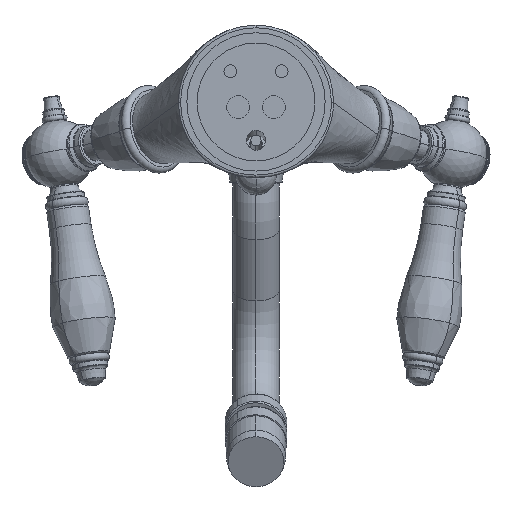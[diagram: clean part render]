
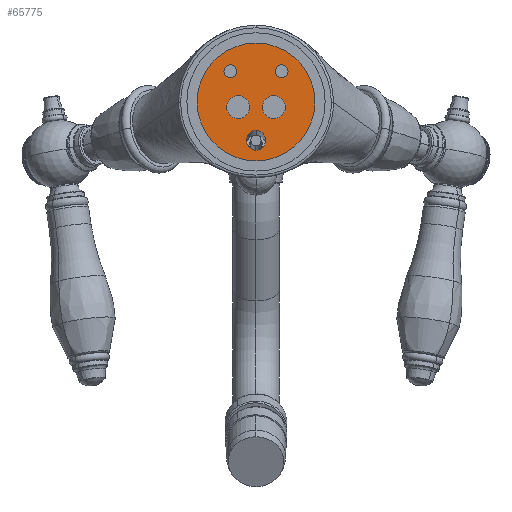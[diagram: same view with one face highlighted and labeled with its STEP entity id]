
A CAD part, front view. The second image highlights one B-rep face of the part: STEP entity #65775.
In plain terms, the highlighted planar face has unit normal (0, -1, 0).
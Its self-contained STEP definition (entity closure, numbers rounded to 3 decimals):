
#19876=CARTESIAN_POINT('',(0.,0.,0.));
#19877=DIRECTION('',(0.,1.,0.));
#19878=DIRECTION('',(-1.,0.,0.));
#19879=AXIS2_PLACEMENT_3D('',#19876,#19877,#19878);
#19881=CARTESIAN_POINT('',(0.,0.,0.));
#19882=DIRECTION('',(0.,1.,0.));
#19883=DIRECTION('',(1.,0.,0.));
#19884=AXIS2_PLACEMENT_3D('',#19881,#19882,#19883);
#19886=CARTESIAN_POINT('',(-7.,0.,-2.));
#19887=DIRECTION('',(0.,-1.,0.));
#19888=DIRECTION('',(-1.,0.,0.));
#19889=AXIS2_PLACEMENT_3D('',#19886,#19887,#19888);
#19891=CARTESIAN_POINT('',(-7.,0.,-2.));
#19892=DIRECTION('',(0.,-1.,0.));
#19893=DIRECTION('',(1.,0.,0.));
#19894=AXIS2_PLACEMENT_3D('',#19891,#19892,#19893);
#19896=CARTESIAN_POINT('',(7.,0.,-2.));
#19897=DIRECTION('',(0.,-1.,0.));
#19898=DIRECTION('',(-1.,0.,0.));
#19899=AXIS2_PLACEMENT_3D('',#19896,#19897,#19898);
#19901=CARTESIAN_POINT('',(7.,0.,-2.));
#19902=DIRECTION('',(0.,-1.,0.));
#19903=DIRECTION('',(1.,0.,0.));
#19904=AXIS2_PLACEMENT_3D('',#19901,#19902,#19903);
#19906=CARTESIAN_POINT('',(-10.,0.,12.));
#19907=DIRECTION('',(0.,-1.,0.));
#19908=DIRECTION('',(-1.,0.,0.));
#19909=AXIS2_PLACEMENT_3D('',#19906,#19907,#19908);
#19911=CARTESIAN_POINT('',(-10.,0.,12.));
#19912=DIRECTION('',(0.,-1.,0.));
#19913=DIRECTION('',(1.,0.,0.));
#19914=AXIS2_PLACEMENT_3D('',#19911,#19912,#19913);
#19916=CARTESIAN_POINT('',(10.,0.,12.));
#19917=DIRECTION('',(0.,-1.,0.));
#19918=DIRECTION('',(-1.,0.,0.));
#19919=AXIS2_PLACEMENT_3D('',#19916,#19917,#19918);
#19921=CARTESIAN_POINT('',(10.,0.,12.));
#19922=DIRECTION('',(0.,-1.,0.));
#19923=DIRECTION('',(1.,0.,0.));
#19924=AXIS2_PLACEMENT_3D('',#19921,#19922,#19923);
#19926=CARTESIAN_POINT('',(0.,0.,
-18.882));
#19927=CARTESIAN_POINT('',(0.221,0.,
-18.882));
#19928=CARTESIAN_POINT('',(0.679,0.,
-18.842));
#19929=CARTESIAN_POINT('',(1.385,0.,
-18.636));
#19930=CARTESIAN_POINT('',(2.064,0.,
-18.274));
#19931=CARTESIAN_POINT('',(2.671,0.,
-17.765));
#19932=CARTESIAN_POINT('',(3.162,0.,
-17.137));
#19933=CARTESIAN_POINT('',(3.512,0.,
-16.433));
#19934=CARTESIAN_POINT('',(3.678,0.,
-15.825));
#19935=CARTESIAN_POINT('',(3.74,0.,
-15.347));
#19936=CARTESIAN_POINT('',(3.755,0.,
-15.));
#19937=CARTESIAN_POINT('',(3.74,0.,
-14.653));
#19938=CARTESIAN_POINT('',(3.678,0.,
-14.175));
#19939=CARTESIAN_POINT('',(3.512,0.,
-13.567));
#19940=CARTESIAN_POINT('',(3.162,0.,
-12.863));
#19941=CARTESIAN_POINT('',(2.671,0.,
-12.235));
#19942=CARTESIAN_POINT('',(2.064,0.,
-11.726));
#19943=CARTESIAN_POINT('',(1.385,0.,
-11.364));
#19944=CARTESIAN_POINT('',(0.679,0.,
-11.158));
#19945=CARTESIAN_POINT('',(0.221,0.,
-11.118));
#19946=CARTESIAN_POINT('',(0.,0.,
-11.118));
#19948=CARTESIAN_POINT('',(0.,0.,
-11.118));
#19949=CARTESIAN_POINT('',(-0.221,0.,
-11.118));
#19950=CARTESIAN_POINT('',(-0.679,0.,
-11.158));
#19951=CARTESIAN_POINT('',(-1.385,0.,
-11.364));
#19952=CARTESIAN_POINT('',(-2.064,0.,
-11.726));
#19953=CARTESIAN_POINT('',(-2.671,0.,
-12.235));
#19954=CARTESIAN_POINT('',(-3.162,0.,
-12.863));
#19955=CARTESIAN_POINT('',(-3.512,0.,
-13.567));
#19956=CARTESIAN_POINT('',(-3.678,0.,
-14.175));
#19957=CARTESIAN_POINT('',(-3.74,0.,
-14.653));
#19958=CARTESIAN_POINT('',(-3.755,0.,
-15.));
#19959=CARTESIAN_POINT('',(-3.74,0.,
-15.347));
#19960=CARTESIAN_POINT('',(-3.678,0.,
-15.825));
#19961=CARTESIAN_POINT('',(-3.512,0.,
-16.433));
#19962=CARTESIAN_POINT('',(-3.162,0.,
-17.137));
#19963=CARTESIAN_POINT('',(-2.671,0.,
-17.765));
#19964=CARTESIAN_POINT('',(-2.064,0.,
-18.274));
#19965=CARTESIAN_POINT('',(-1.385,0.,
-18.636));
#19966=CARTESIAN_POINT('',(-0.679,0.,
-18.842));
#19967=CARTESIAN_POINT('',(-0.221,0.,
-18.882));
#19968=CARTESIAN_POINT('',(0.,0.,
-18.882));
#23020=CARTESIAN_POINT('',(-23.,0.,0.));
#23021=CARTESIAN_POINT('',(23.,0.,0.));
#23022=VERTEX_POINT('',#23020);
#23023=VERTEX_POINT('',#23021);
#23036=CARTESIAN_POINT('',(-11.5,0.,-2.));
#23037=CARTESIAN_POINT('',(-2.5,0.,-2.));
#23038=VERTEX_POINT('',#23036);
#23039=VERTEX_POINT('',#23037);
#23040=CARTESIAN_POINT('',(2.5,0.,-2.));
#23041=CARTESIAN_POINT('',(11.5,0.,-2.));
#23042=VERTEX_POINT('',#23040);
#23043=VERTEX_POINT('',#23041);
#23052=CARTESIAN_POINT('',(-12.5,0.,12.));
#23053=CARTESIAN_POINT('',(-7.5,0.,12.));
#23054=VERTEX_POINT('',#23052);
#23055=VERTEX_POINT('',#23053);
#23056=CARTESIAN_POINT('',(7.5,0.,12.));
#23057=CARTESIAN_POINT('',(12.5,0.,12.));
#23058=VERTEX_POINT('',#23056);
#23059=VERTEX_POINT('',#23057);
#23070=VERTEX_POINT('',#19926);
#23071=VERTEX_POINT('',#19946);
#65735=CARTESIAN_POINT('',(0.,0.,
-0.004));
#65736=DIRECTION('',(0.,-1.,0.));
#65737=DIRECTION('',(1.,0.,0.));
#65738=AXIS2_PLACEMENT_3D('',#65735,#65736,#65737);
#65739=PLANE('',#65738);
#65741=ORIENTED_EDGE('',*,*,#65740,.T.);
#65743=ORIENTED_EDGE('',*,*,#65742,.T.);
#65744=EDGE_LOOP('',(#65741,#65743));
#65745=FACE_OUTER_BOUND('',#65744,.F.);
#65747=ORIENTED_EDGE('',*,*,#65746,.T.);
#65749=ORIENTED_EDGE('',*,*,#65748,.T.);
#65750=EDGE_LOOP('',(#65747,#65749));
#65751=FACE_BOUND('',#65750,.F.);
#65753=ORIENTED_EDGE('',*,*,#65752,.T.);
#65755=ORIENTED_EDGE('',*,*,#65754,.T.);
#65756=EDGE_LOOP('',(#65753,#65755));
#65757=FACE_BOUND('',#65756,.F.);
#65759=ORIENTED_EDGE('',*,*,#65758,.T.);
#65761=ORIENTED_EDGE('',*,*,#65760,.T.);
#65762=EDGE_LOOP('',(#65759,#65761));
#65763=FACE_BOUND('',#65762,.F.);
#65765=ORIENTED_EDGE('',*,*,#65764,.T.);
#65767=ORIENTED_EDGE('',*,*,#65766,.T.);
#65768=EDGE_LOOP('',(#65765,#65767));
#65769=FACE_BOUND('',#65768,.F.);
#65771=ORIENTED_EDGE('',*,*,#65770,.T.);
#65772=ORIENTED_EDGE('',*,*,#65725,.T.);
#65773=EDGE_LOOP('',(#65771,#65772));
#65774=FACE_BOUND('',#65773,.F.);
#65775=ADVANCED_FACE('',(#65745,#65751,#65757,#65763,#65769,#65774),#65739,.T.);
#19880=CIRCLE('',#19879,23.);
#19885=CIRCLE('',#19884,23.);
#19890=CIRCLE('',#19889,4.5);
#19895=CIRCLE('',#19894,4.5);
#19900=CIRCLE('',#19899,4.5);
#19905=CIRCLE('',#19904,4.5);
#19910=CIRCLE('',#19909,2.5);
#19915=CIRCLE('',#19914,2.5);
#19920=CIRCLE('',#19919,2.5);
#19925=CIRCLE('',#19924,2.5);
#19947=B_SPLINE_CURVE_WITH_KNOTS('',3,(#19926,#19927,#19928,#19929,#19930,
#19931,#19932,#19933,#19934,#19935,#19936,#19937,#19938,#19939,#19940,#19941,
#19942,#19943,#19944,#19945,#19946),.UNSPECIFIED.,.F.,.F.,(4,1,1,1,1,1,1,1,1,1,
1,1,1,1,1,1,1,1,4),(0.,0.063,0.125,0.188,0.25,0.313,0.375,
0.438,0.469,0.5,0.531,0.563,0.625,0.688,0.75,0.813,
0.875,0.938,1.),.UNSPECIFIED.);
#19969=B_SPLINE_CURVE_WITH_KNOTS('',3,(#19948,#19949,#19950,#19951,#19952,
#19953,#19954,#19955,#19956,#19957,#19958,#19959,#19960,#19961,#19962,#19963,
#19964,#19965,#19966,#19967,#19968),.UNSPECIFIED.,.F.,.F.,(4,1,1,1,1,1,1,1,1,1,
1,1,1,1,1,1,1,1,4),(0.,0.063,0.125,0.188,0.25,0.313,0.375,
0.438,0.469,0.5,0.531,0.563,0.625,0.688,0.75,0.813,
0.875,0.938,1.),.UNSPECIFIED.);
#65725=EDGE_CURVE('',#23071,#23070,#19969,.T.);
#65740=EDGE_CURVE('',#23022,#23023,#19880,.T.);
#65742=EDGE_CURVE('',#23023,#23022,#19885,.T.);
#65746=EDGE_CURVE('',#23038,#23039,#19890,.T.);
#65748=EDGE_CURVE('',#23039,#23038,#19895,.T.);
#65752=EDGE_CURVE('',#23042,#23043,#19900,.T.);
#65754=EDGE_CURVE('',#23043,#23042,#19905,.T.);
#65758=EDGE_CURVE('',#23054,#23055,#19910,.T.);
#65760=EDGE_CURVE('',#23055,#23054,#19915,.T.);
#65764=EDGE_CURVE('',#23058,#23059,#19920,.T.);
#65766=EDGE_CURVE('',#23059,#23058,#19925,.T.);
#65770=EDGE_CURVE('',#23070,#23071,#19947,.T.);
